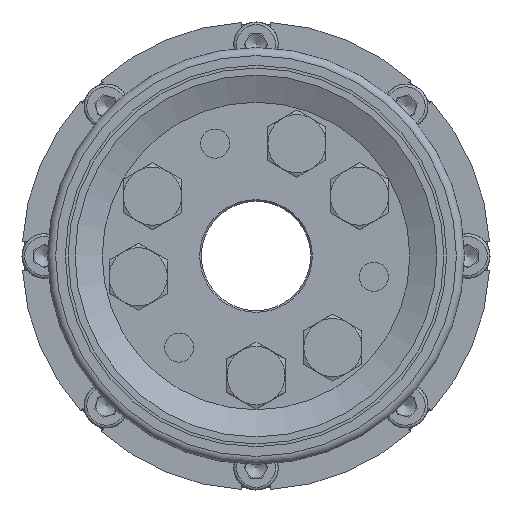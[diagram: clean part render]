
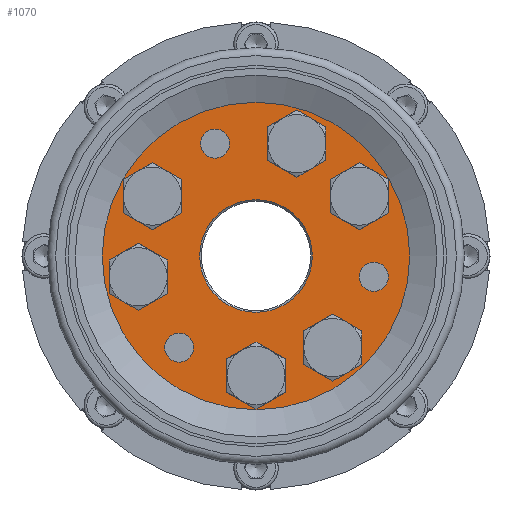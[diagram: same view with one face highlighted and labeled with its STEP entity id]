
A CAD part, left-side view. The second image highlights one B-rep face of the part: STEP entity #1070.
In plain terms, the highlighted planar face has unit normal (-1, 0, 0).
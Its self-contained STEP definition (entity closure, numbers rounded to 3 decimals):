
#1070 = ADVANCED_FACE( '', ( #2668, #2669, #2670, #2671, #2672, #2673, #2674, #2675, #2676, #2677, #2678 ), #2679, .T. );
#2668 = FACE_BOUND( '', #4922, .T. );
#2669 = FACE_OUTER_BOUND( '', #4923, .T. );
#2670 = FACE_BOUND( '', #4924, .T. );
#2671 = FACE_BOUND( '', #4925, .T. );
#2672 = FACE_BOUND( '', #4926, .T. );
#2673 = FACE_BOUND( '', #4927, .T. );
#2674 = FACE_BOUND( '', #4928, .T. );
#2675 = FACE_BOUND( '', #4929, .T. );
#2676 = FACE_BOUND( '', #4930, .T. );
#2677 = FACE_BOUND( '', #4931, .T. );
#2678 = FACE_BOUND( '', #4932, .T. );
#2679 = PLANE( '', #4933 );
#4922 = EDGE_LOOP( '', ( #8176 ) );
#4923 = EDGE_LOOP( '', ( #8177 ) );
#4924 = EDGE_LOOP( '', ( #8178 ) );
#4925 = EDGE_LOOP( '', ( #8179 ) );
#4926 = EDGE_LOOP( '', ( #8180 ) );
#4927 = EDGE_LOOP( '', ( #8181 ) );
#4928 = EDGE_LOOP( '', ( #8182 ) );
#4929 = EDGE_LOOP( '', ( #8183 ) );
#4930 = EDGE_LOOP( '', ( #8184 ) );
#4931 = EDGE_LOOP( '', ( #8185 ) );
#4932 = EDGE_LOOP( '', ( #8186 ) );
#4933 = AXIS2_PLACEMENT_3D( '', #8187, #8188, #8189 );
#8176 = ORIENTED_EDGE( '', *, *, #12833, .T. );
#8177 = ORIENTED_EDGE( '', *, *, #12834, .T. );
#8178 = ORIENTED_EDGE( '', *, *, #12835, .T. );
#8179 = ORIENTED_EDGE( '', *, *, #12836, .T. );
#8180 = ORIENTED_EDGE( '', *, *, #12005, .T. );
#8181 = ORIENTED_EDGE( '', *, *, #11889, .T. );
#8182 = ORIENTED_EDGE( '', *, *, #12837, .T. );
#8183 = ORIENTED_EDGE( '', *, *, #12195, .T. );
#8184 = ORIENTED_EDGE( '', *, *, #12707, .T. );
#8185 = ORIENTED_EDGE( '', *, *, #12710, .T. );
#8186 = ORIENTED_EDGE( '', *, *, #12838, .T. );
#8187 = CARTESIAN_POINT( '', ( -75.5, 12.124, 7. ) );
#8188 = DIRECTION( '', ( -1., 0., 0. ) );
#8189 = DIRECTION( '', ( 0., 1., 0. ) );
#11889 = EDGE_CURVE( '', #13961, #13961, #13962, .T. );
#12005 = EDGE_CURVE( '', #14167, #14167, #14168, .T. );
#12195 = EDGE_CURVE( '', #14497, #14497, #14498, .T. );
#12707 = EDGE_CURVE( '', #15328, #15328, #15329, .T. );
#12710 = EDGE_CURVE( '', #15333, #15333, #15334, .T. );
#12833 = EDGE_CURVE( '', #15527, #15527, #15528, .F. );
#12834 = EDGE_CURVE( '', #15529, #15529, #15530, .T. );
#12835 = EDGE_CURVE( '', #15531, #15531, #15532, .T. );
#12836 = EDGE_CURVE( '', #15533, #15533, #15534, .T. );
#12837 = EDGE_CURVE( '', #15535, #15535, #15536, .T. );
#12838 = EDGE_CURVE( '', #15537, #15537, #15538, .T. );
#13961 = VERTEX_POINT( '', #16981 );
#13962 = CIRCLE( '', #16982, 7.75 );
#14167 = VERTEX_POINT( '', #17467 );
#14168 = CIRCLE( '', #17468, 4.25 );
#14497 = VERTEX_POINT( '', #18366 );
#14498 = CIRCLE( '', #18367, 7.75 );
#15328 = VERTEX_POINT( '', #20251 );
#15329 = CIRCLE( '', #20252, 7.75 );
#15333 = VERTEX_POINT( '', #20256 );
#15334 = CIRCLE( '', #20257, 7.75 );
#15527 = VERTEX_POINT( '', #20703 );
#15528 = CIRCLE( '', #20704, 16.5 );
#15529 = VERTEX_POINT( '', #20705 );
#15530 = CIRCLE( '', #20706, 45. );
#15531 = VERTEX_POINT( '', #20707 );
#15532 = CIRCLE( '', #20708, 4.25 );
#15533 = VERTEX_POINT( '', #20709 );
#15534 = CIRCLE( '', #20710, 4.25 );
#15535 = VERTEX_POINT( '', #20711 );
#15536 = CIRCLE( '', #20712, 7.75 );
#15537 = VERTEX_POINT( '', #20713 );
#15538 = CIRCLE( '', #20714, 7.75 );
#16981 = CARTESIAN_POINT( '', ( -75.5, -7.75, -35. ) );
#16982 = AXIS2_PLACEMENT_3D( '', #23569, #23570, #23571 );
#17467 = CARTESIAN_POINT( '', ( -75.5, -32.343, -9.758 ) );
#17468 = AXIS2_PLACEMENT_3D( '', #23731, #23732, #23733 );
#18366 = CARTESIAN_POINT( '', ( -75.5, 26.718, -6.078 ) );
#18367 = AXIS2_PLACEMENT_3D( '', #23972, #23973, #23974 );
#20251 = CARTESIAN_POINT( '', ( -75.5, -30.248, -26.812 ) );
#20252 = AXIS2_PLACEMENT_3D( '', #24637, #24638, #24639 );
#20256 = CARTESIAN_POINT( '', ( -75.5, -38.061, 17.5 ) );
#20257 = AXIS2_PLACEMENT_3D( '', #24643, #24644, #24645 );
#20703 = CARTESIAN_POINT( '', ( -75.5, -16.5, 0. ) );
#20704 = AXIS2_PLACEMENT_3D( '', #24793, #24794, #24795 );
#20705 = CARTESIAN_POINT( '', ( -75.5, 38.971, 22.5 ) );
#20706 = AXIS2_PLACEMENT_3D( '', #24796, #24797, #24798 );
#20707 = CARTESIAN_POINT( '', ( -75.5, 24.623, -30.492 ) );
#20708 = AXIS2_PLACEMENT_3D( '', #24799, #24800, #24801 );
#20709 = CARTESIAN_POINT( '', ( -75.5, 14.096, 29.209 ) );
#20710 = AXIS2_PLACEMENT_3D( '', #24802, #24803, #24804 );
#20711 = CARTESIAN_POINT( '', ( -75.5, 22.561, 17.5 ) );
#20712 = AXIS2_PLACEMENT_3D( '', #24805, #24806, #24807 );
#20713 = CARTESIAN_POINT( '', ( -75.5, -19.721, 32.889 ) );
#20714 = AXIS2_PLACEMENT_3D( '', #24808, #24809, #24810 );
#23569 = CARTESIAN_POINT( '', ( -75.5, 0., -35. ) );
#23570 = DIRECTION( '', ( 1., 0., 0. ) );
#23571 = DIRECTION( '', ( 0., -1., 0. ) );
#23731 = CARTESIAN_POINT( '', ( -75.5, -34.468, -6.078 ) );
#23732 = DIRECTION( '', ( 1., 0., 0. ) );
#23733 = DIRECTION( '', ( 0., 0.5, -0.866 ) );
#23972 = CARTESIAN_POINT( '', ( -75.5, 34.468, -6.078 ) );
#23973 = DIRECTION( '', ( 1., 0., 0. ) );
#23974 = DIRECTION( '', ( 0., -1., 0. ) );
#24637 = CARTESIAN_POINT( '', ( -75.5, -22.498, -26.812 ) );
#24638 = DIRECTION( '', ( 1., 0., 0. ) );
#24639 = DIRECTION( '', ( 0., -1., 0. ) );
#24643 = CARTESIAN_POINT( '', ( -75.5, -30.311, 17.5 ) );
#24644 = DIRECTION( '', ( 1., 0., 0. ) );
#24645 = DIRECTION( '', ( 0., -1., 0. ) );
#24793 = CARTESIAN_POINT( '', ( -75.5, 0., 0. ) );
#24794 = DIRECTION( '', ( -1., 0., 0. ) );
#24795 = DIRECTION( '', ( 0., -1., 0. ) );
#24796 = CARTESIAN_POINT( '', ( -75.5, 0., 0. ) );
#24797 = DIRECTION( '', ( -1., 0., 0. ) );
#24798 = DIRECTION( '', ( 0., 0.866, 0.5 ) );
#24799 = CARTESIAN_POINT( '', ( -75.5, 22.498, -26.812 ) );
#24800 = DIRECTION( '', ( 1., 0., 0. ) );
#24801 = DIRECTION( '', ( 0., 0.5, -0.866 ) );
#24802 = CARTESIAN_POINT( '', ( -75.5, 11.971, 32.889 ) );
#24803 = DIRECTION( '', ( 1., 0., 0. ) );
#24804 = DIRECTION( '', ( 0., 0.5, -0.866 ) );
#24805 = CARTESIAN_POINT( '', ( -75.5, 30.311, 17.5 ) );
#24806 = DIRECTION( '', ( 1., 0., 0. ) );
#24807 = DIRECTION( '', ( 0., -1., 0. ) );
#24808 = CARTESIAN_POINT( '', ( -75.5, -11.971, 32.889 ) );
#24809 = DIRECTION( '', ( 1., 0., 0. ) );
#24810 = DIRECTION( '', ( 0., -1., 0. ) );
